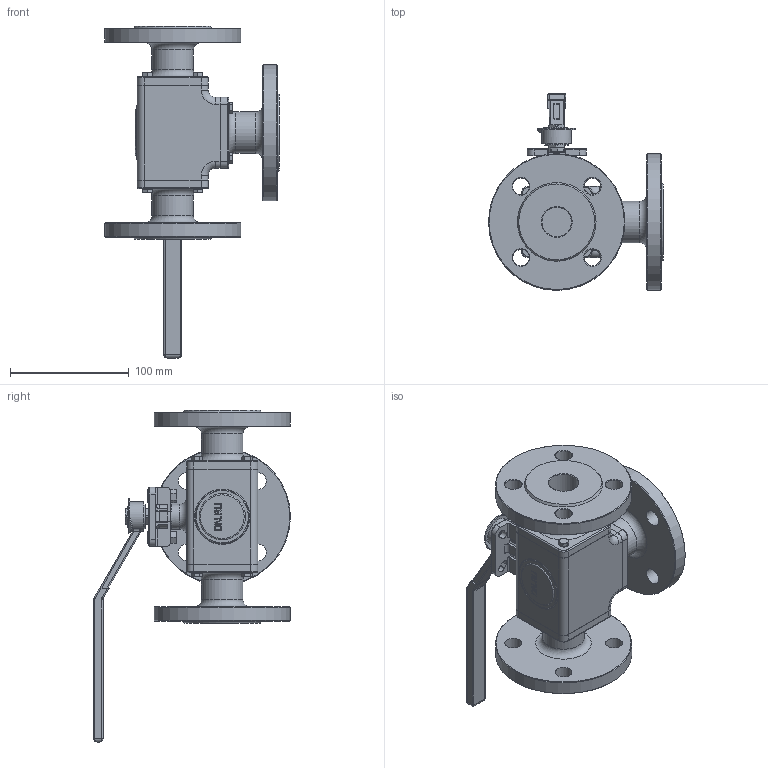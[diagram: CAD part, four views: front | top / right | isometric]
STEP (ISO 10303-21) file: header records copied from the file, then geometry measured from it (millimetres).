
FILE_DESCRIPTION(('STEP AP242'), '1');
FILE_NAME('BV3232P(4pc)-FP-3WL-F-ISO-H Êðàí øàðîâîé DN.ru Äó25 Ðó16', '', ('UNSPECIFIED'), ('UNSPECIFIED'), 'C3D Converter', 'C3D Toolkit', '');
FILE_SCHEMA(('AP242_MANAGED_MODEL_BASED_3D_ENGINEERING_MIM_LF { 1 0 10303 442 1 1 4 }'));
Length unit declared in the file: millimetre
Products named in the file (1): BV3232P(4pc)-FP-3WL-F-ISO-H
Bounding box: 147.5 x 166 x 280 mm (x, y, z)
Volume: 848302.4 mm3; surface area: 167408.9 mm2
Topology: 1 solids, 14 shells, 925 faces, 2234 edges, 1386 vertices
Faces by surface type: plane 475, cylinder 213, cone 136, bspline 59, torus 42
Full cylindrical faces by diameter (mm): 1.119 x2, 2 x1, 4.917 x2, 5 x24, 6 x14, 8 x12, 10 x2, 14 x12, 16 x1, 20 x1, 20.905 x1, 25 x4, 30 x3, 35 x3, 115 x3
Entity records: 44143 total; most frequent: CARTESIAN_POINT 18955, ORIENTED_EDGE 4210, DIRECTION 4134, EDGE_CURVE 2105, AXIS2_PLACEMENT_3D 1555, VERTEX_POINT 1386, EDGE_LOOP 1195, LINE 1024
